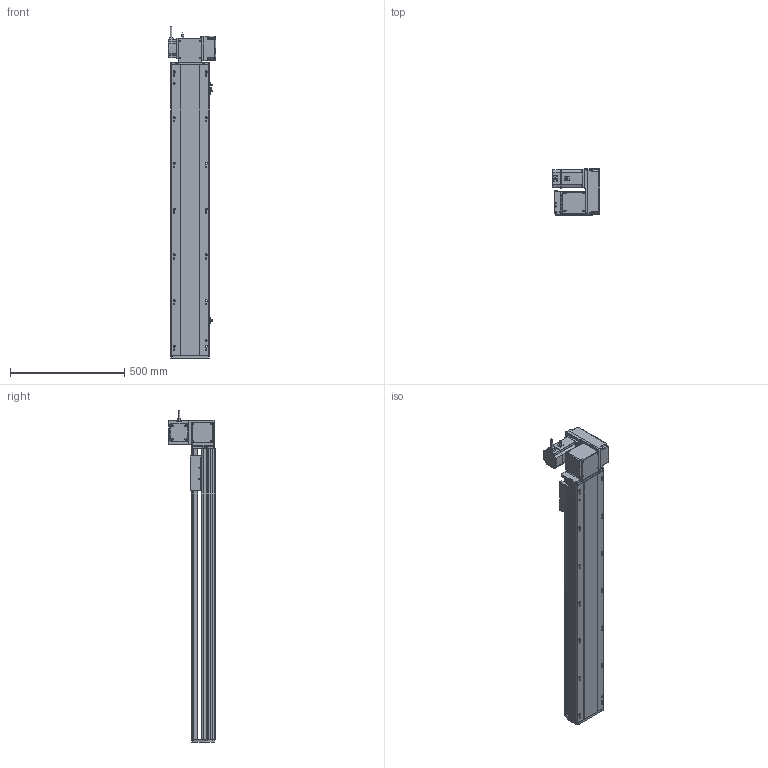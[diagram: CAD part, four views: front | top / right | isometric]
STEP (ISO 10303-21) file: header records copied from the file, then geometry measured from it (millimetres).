
FILE_DESCRIPTION (( 'STEP AP214' ), '1' );
FILE_NAME ('RTB17S-XX-1000-RW-M75-C4.STEP', '2025-12-12T02:36:00', ( '' ), ( '' ), 'SwSTEP 2.0', 'SolidWorks 2018', '' );
FILE_SCHEMA (( 'AUTOMOTIVE_DESIGN' ));
Length unit declared in the file: millimetre
Products named in the file (15): RTB22S-GY-018P^RTB17S-RW-々湍釱蚾饜-750W_RTB17S-XX-XX-RW-M75-C4; RTB22S-GY-008-M75--萇儂啣^RTB17S-RW-々湍釱蚾饜-750W_RTB17S-XX-XX-RW-M75-C4; 750W萇儂^RTB17S-XX-XX-RW-M75-C4; RTB22S-GY-005P^RTB17S-RW-々湍釱蚾饜-750W_RTB17S-XX-XX-RW-M75-C4; RTB17S-賑釱^RTB17S-XX-XX-RW-M75-C4; RTB17-R-011菁釱^RTB17S-XX-XX-RW-M75-C4; RTH13-BL-012覜茼え俋离^RTB17S-賑釱_RTB17S-XX-XX-RW-M75-C4; RTB17S-L-004-賑釱^RTB17S-賑釱_RTB17S-XX-XX-RW-M75-C4; RTB17S-L-001-耜醱啣^RTB17S-XX-XX-RW-M75-C4; RTB22S-GY-017P^RTB17S-RW-々湍釱蚾饜-750W_RTB17S-XX-XX-RW-M75-C4; RTB17S-L-007奻裔^RTB17S-XX-XX-RW-M75-C4; EE672^RTB17S-XX-XX-RW-M75-C4; RMP17S-L-014-T20-P75--々湍釱^RTB17S-RW-々湍釱蚾饜-750W_RTB17S-XX-XX-RW-M75-C4; RTB17S-RW-々湍釱蚾饜-750W^RTB17S-XX-XX-RW-M75-C4; RTB17S-XX-1000-RW-M75-C4
Assembly tree (17 placements, depth 3):
  RTB17S-XX-1000-RW-M75-C4
    RTB17-R-011菁釱^RTB17S-XX-XX-RW-M75-C4
    EE672^RTB17S-XX-XX-RW-M75-C4  x3
    RTB17S-L-001-耜醱啣^RTB17S-XX-XX-RW-M75-C4
    RTB17S-賑釱^RTB17S-XX-XX-RW-M75-C4
      RTB17S-L-004-賑釱^RTB17S-賑釱_RTB17S-XX-XX-RW-M75-C4
      RTH13-BL-012覜茼え俋离^RTB17S-賑釱_RTB17S-XX-XX-RW-M75-C4
    RTB17S-L-007奻裔^RTB17S-XX-XX-RW-M75-C4
    750W萇儂^RTB17S-XX-XX-RW-M75-C4
    RTB17S-RW-々湍釱蚾饜-750W^RTB17S-XX-XX-RW-M75-C4
      RMP17S-L-014-T20-P75--々湍釱^RTB17S-RW-々湍釱蚾饜-750W_RTB17S-XX-XX-RW-M75-C4
      RTB22S-GY-005P^RTB17S-RW-々湍釱蚾饜-750W_RTB17S-XX-XX-RW-M75-C4
      RTB22S-GY-017P^RTB17S-RW-々湍釱蚾饜-750W_RTB17S-XX-XX-RW-M75-C4  x2
      RTB22S-GY-008-M75--萇儂啣^RTB17S-RW-々湍釱蚾饜-750W_RTB17S-XX-XX-RW-M75-C4
      RTB22S-GY-018P^RTB17S-RW-々湍釱蚾饜-750W_RTB17S-XX-XX-RW-M75-C4
Bounding box: 207.4 x 201.5 x 1452.2 mm (x, y, z)
Volume: 12203760.2 mm3; surface area: 2070019.7 mm2
Topology: 17 solids, 17 shells, 2089 faces, 5782 edges, 3734 vertices
Faces by surface type: plane 970, cylinder 703, bspline 294, cone 110, sphere 8, torus 4
Entity records: 58102 total; most frequent: CARTESIAN_POINT 17046, ORIENTED_EDGE 8408, DIRECTION 7862, EDGE_CURVE 4204, AXIS2_PLACEMENT_3D 2754, VERTEX_POINT 2738, VECTOR 2354, LINE 2354
